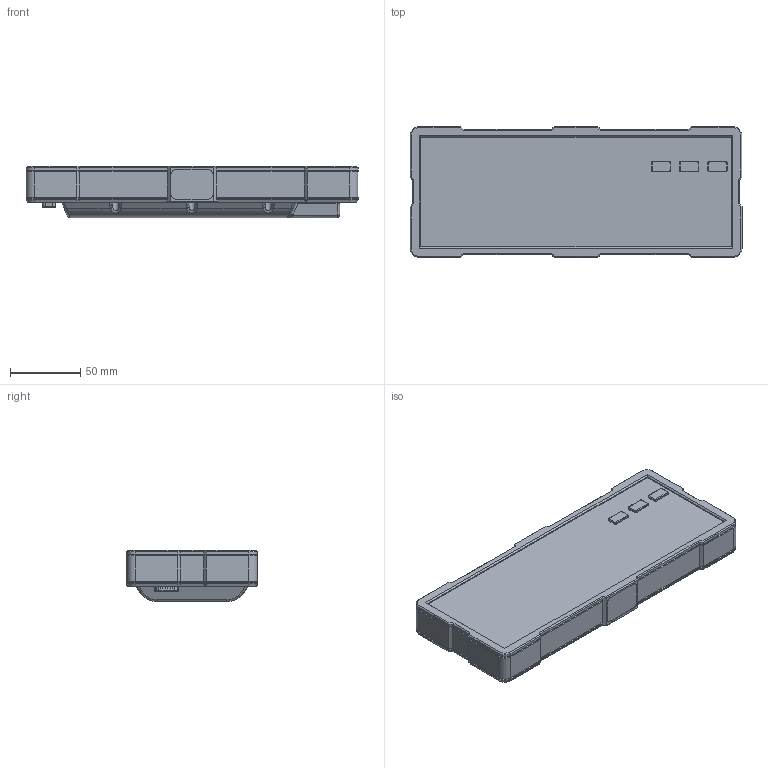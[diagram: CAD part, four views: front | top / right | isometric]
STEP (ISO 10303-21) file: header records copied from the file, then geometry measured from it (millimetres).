
FILE_DESCRIPTION(/* description */ ('','CAx-IF Rec.Pracs.---Representation and Presentation of Product Manufacturing Information (PMI)---4.0---2014-10-13'),/* implementation_level */ '2;1');
FILE_NAME(/* name */ 'BC-2013 GUMA PREDVADECI.step',/* time_stamp */ '2025-03-11T17:25:13+01:00',/* author */ (''),/* organization */ (''),/* preprocessor_version */ 'ST-DEVELOPER v20',/* originating_system */ 'Autodesk Translation Framework v13.20.0.188',/* authorisation */ '');
FILE_SCHEMA (('AP242_MANAGED_MODEL_BASED_3D_ENGINEERING_MIM_LF { 1 0 10303 442 1 1 4 }'));
Products named in the file (1): BC-2013 GUMA
Bounding box: 235.8 x 92.8 x 36.35 mm (x, y, z)
Volume: 640583.1 mm3; surface area: 71072.3 mm2
Topology: 1 solids, 13 shells, 1260 faces, 3053 edges, 1859 vertices
Faces by surface type: plane 635, cylinder 306, bspline 179, torus 68, cone 36, sphere 36
Full cylindrical faces by diameter (mm): 0.84 x9, 1.04 x9, 1.14 x9, 1.783 x3, 1.933 x3, 2.5 x12
Entity records: 46914 total; most frequent: CARTESIAN_POINT 18317, ORIENTED_EDGE 6056, DIRECTION 5706, EDGE_CURVE 3028, AXIS2_PLACEMENT_3D 1982, VERTEX_POINT 1859, LINE 1742, VECTOR 1742
